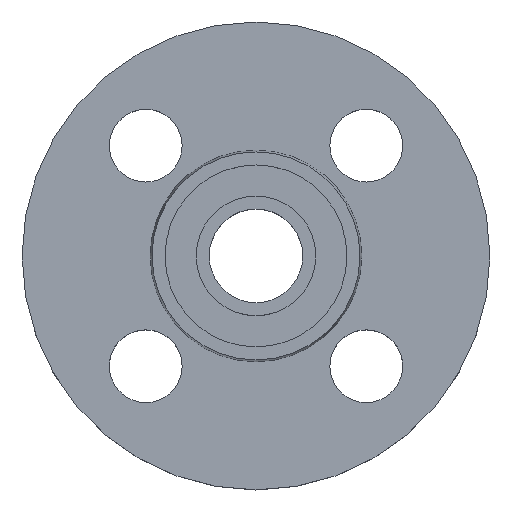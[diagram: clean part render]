
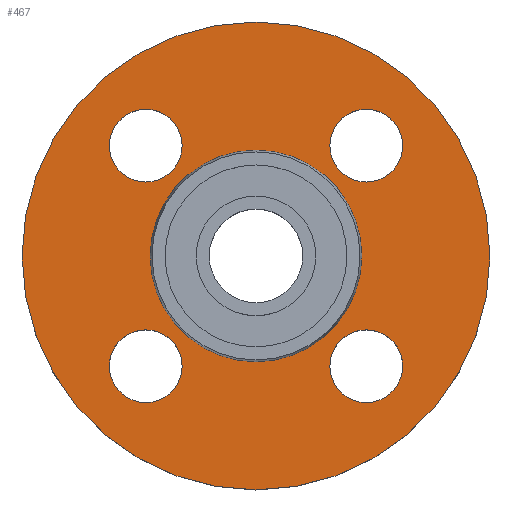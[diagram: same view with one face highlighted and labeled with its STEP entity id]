
A CAD part, top view. The second image highlights one B-rep face of the part: STEP entity #467.
In plain terms, the highlighted planar face has unit normal (0, 0, 1).
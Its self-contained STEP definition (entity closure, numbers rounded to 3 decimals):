
#11 = CARTESIAN_POINT ( 'NONE',  ( 28.213, 21.213, -2. ) ) ;
#13 = CARTESIAN_POINT ( 'NONE',  ( -14.213, -21.213, -2. ) ) ;
#15 = AXIS2_PLACEMENT_3D ( 'NONE', #123, #120, #121 ) ;
#33 = CARTESIAN_POINT ( 'NONE',  ( 28.213, -21.213, -2. ) ) ;
#57 = CARTESIAN_POINT ( 'NONE',  ( 45., 0., -2. ) ) ;
#61 = CARTESIAN_POINT ( 'NONE',  ( -28.213, 21.213, -2. ) ) ;
#62 = CARTESIAN_POINT ( 'NONE',  ( -28.213, -21.213, -2. ) ) ;
#74 = CARTESIAN_POINT ( 'NONE',  ( 14.213, 21.213, -2. ) ) ;
#77 = CIRCLE ( 'NONE', #362, 20.353 ) ;
#79 = VERTEX_POINT ( 'NONE', #865 ) ;
#84 = CARTESIAN_POINT ( 'NONE',  ( -14.213, 21.213, -2. ) ) ;
#88 = AXIS2_PLACEMENT_3D ( 'NONE', #344, #343, #342 ) ;
#99 = CARTESIAN_POINT ( 'NONE',  ( -20.353, 0., -2. ) ) ;
#100 = DIRECTION ( 'NONE',  ( -1., 0., 0. ) ) ;
#101 = DIRECTION ( 'NONE',  ( 0., 0., -1. ) ) ;
#103 = CARTESIAN_POINT ( 'NONE',  ( 21.213, 21.213, -2. ) ) ;
#109 = CARTESIAN_POINT ( 'NONE',  ( 0., 0., -2. ) ) ;
#112 = AXIS2_PLACEMENT_3D ( 'NONE', #211, #203, #232 ) ;
#113 = CARTESIAN_POINT ( 'NONE',  ( 14.213, -21.213, -2. ) ) ;
#120 = DIRECTION ( 'NONE',  ( 0., 0., -1. ) ) ;
#121 = DIRECTION ( 'NONE',  ( -1., 0., 0. ) ) ;
#123 = CARTESIAN_POINT ( 'NONE',  ( 0., 0., -2. ) ) ;
#131 = CARTESIAN_POINT ( 'NONE',  ( 20.353, 0., -2. ) ) ;
#194 = AXIS2_PLACEMENT_3D ( 'NONE', #109, #101, #100 ) ;
#200 = AXIS2_PLACEMENT_3D ( 'NONE', #432, #433, #437 ) ;
#203 = DIRECTION ( 'NONE',  ( 0., 0., -1. ) ) ;
#211 = CARTESIAN_POINT ( 'NONE',  ( 21.213, -21.213, -2. ) ) ;
#218 = EDGE_CURVE ( 'NONE', #631, #676, #296, .T. ) ;
#224 = EDGE_CURVE ( 'NONE', #795, #79, #496, .T. ) ;
#229 = CARTESIAN_POINT ( 'NONE',  ( -21.213, -21.213, -2. ) ) ;
#232 = DIRECTION ( 'NONE',  ( 1., 0., 0. ) ) ;
#236 = EDGE_CURVE ( 'NONE', #749, #659, #237, .T. ) ;
#237 = CIRCLE ( 'NONE', #268, 7. ) ;
#241 = CIRCLE ( 'NONE', #321, 7. ) ;
#256 = DIRECTION ( 'NONE',  ( 0., 0., -1. ) ) ;
#258 = AXIS2_PLACEMENT_3D ( 'NONE', #526, #527, #529 ) ;
#261 = DIRECTION ( 'NONE',  ( 1., 0., 0. ) ) ;
#268 = AXIS2_PLACEMENT_3D ( 'NONE', #460, #461, #465 ) ;
#273 = EDGE_CURVE ( 'NONE', #811, #580, #723, .T. ) ;
#296 = CIRCLE ( 'NONE', #200, 7. ) ;
#299 = DIRECTION ( 'NONE',  ( 0., 0., -1. ) ) ;
#309 = EDGE_CURVE ( 'NONE', #676, #631, #681, .T. ) ;
#321 = AXIS2_PLACEMENT_3D ( 'NONE', #229, #256, #261 ) ;
#322 = AXIS2_PLACEMENT_3D ( 'NONE', #405, #403, #401 ) ;
#329 = AXIS2_PLACEMENT_3D ( 'NONE', #103, #299, #680 ) ;
#342 = DIRECTION ( 'NONE',  ( 1., 0., 0. ) ) ;
#343 = DIRECTION ( 'NONE',  ( 0., 0., -1. ) ) ;
#344 = CARTESIAN_POINT ( 'NONE',  ( -21.213, 21.213, -2. ) ) ;
#362 = AXIS2_PLACEMENT_3D ( 'NONE', #471, #427, #468 ) ;
#372 = EDGE_CURVE ( 'NONE', #580, #811, #418, .T. ) ;
#378 = CIRCLE ( 'NONE', #15, 45. ) ;
#384 = DIRECTION ( 'NONE',  ( 1., 0., 0. ) ) ;
#385 = DIRECTION ( 'NONE',  ( 0., 0., -1. ) ) ;
#387 = CARTESIAN_POINT ( 'NONE',  ( -21.213, 21.213, -2. ) ) ;
#394 = EDGE_CURVE ( 'NONE', #659, #749, #241, .T. ) ;
#401 = DIRECTION ( 'NONE',  ( 1., 0., 0. ) ) ;
#403 = DIRECTION ( 'NONE',  ( 0., 0., 1. ) ) ;
#405 = CARTESIAN_POINT ( 'NONE',  ( 20.353, 0., -2. ) ) ;
#406 = CIRCLE ( 'NONE', #770, 7. ) ;
#408 = PLANE ( 'NONE',  #322 ) ;
#409 = FACE_OUTER_BOUND ( 'NONE', #717, .T. ) ;
#410 = FACE_BOUND ( 'NONE', #682, .T. ) ;
#411 = FACE_BOUND ( 'NONE', #585, .T. ) ;
#417 = FACE_BOUND ( 'NONE', #586, .T. ) ;
#418 = CIRCLE ( 'NONE', #112, 7. ) ;
#420 = FACE_BOUND ( 'NONE', #629, .T. ) ;
#427 = DIRECTION ( 'NONE',  ( 0., 0., -1. ) ) ;
#432 = CARTESIAN_POINT ( 'NONE',  ( 21.213, 21.213, -2. ) ) ;
#433 = DIRECTION ( 'NONE',  ( 0., 0., -1. ) ) ;
#437 = DIRECTION ( 'NONE',  ( 1., 0., 0. ) ) ;
#441 = CARTESIAN_POINT ( 'NONE',  ( 0., 0., -2. ) ) ;
#442 = DIRECTION ( 'NONE',  ( 0., 0., -1. ) ) ;
#443 = DIRECTION ( 'NONE',  ( -1., 0., 0. ) ) ;
#456 = EDGE_CURVE ( 'NONE', #601, #558, #77, .T. ) ;
#460 = CARTESIAN_POINT ( 'NONE',  ( -21.213, -21.213, -2. ) ) ;
#461 = DIRECTION ( 'NONE',  ( 0., 0., -1. ) ) ;
#465 = DIRECTION ( 'NONE',  ( 1., 0., 0. ) ) ;
#467 = ADVANCED_FACE ( 'NONE', ( #524, #411, #410, #417, #420, #409 ), #408, .T. ) ;
#468 = DIRECTION ( 'NONE',  ( -1., 0., 0. ) ) ;
#471 = CARTESIAN_POINT ( 'NONE',  ( 0., 0., -2. ) ) ;
#493 = EDGE_CURVE ( 'NONE', #623, #761, #406, .T. ) ;
#496 = CIRCLE ( 'NONE', #610, 45. ) ;
#516 = EDGE_CURVE ( 'NONE', #761, #623, #555, .T. ) ;
#524 = FACE_BOUND ( 'NONE', #815, .T. ) ;
#526 = CARTESIAN_POINT ( 'NONE',  ( 21.213, -21.213, -2. ) ) ;
#527 = DIRECTION ( 'NONE',  ( 0., 0., -1. ) ) ;
#529 = DIRECTION ( 'NONE',  ( 1., 0., 0. ) ) ;
#555 = CIRCLE ( 'NONE', #88, 7. ) ;
#558 = VERTEX_POINT ( 'NONE', #131 ) ;
#570 = EDGE_CURVE ( 'NONE', #79, #795, #378, .T. ) ;
#580 = VERTEX_POINT ( 'NONE', #113 ) ;
#585 = EDGE_LOOP ( 'NONE', ( #686, #688 ) ) ;
#586 = EDGE_LOOP ( 'NONE', ( #697, #698 ) ) ;
#597 = EDGE_CURVE ( 'NONE', #558, #601, #857, .T. ) ;
#601 = VERTEX_POINT ( 'NONE', #99 ) ;
#610 = AXIS2_PLACEMENT_3D ( 'NONE', #441, #442, #443 ) ;
#623 = VERTEX_POINT ( 'NONE', #84 ) ;
#629 = EDGE_LOOP ( 'NONE', ( #699, #700 ) ) ;
#631 = VERTEX_POINT ( 'NONE', #74 ) ;
#659 = VERTEX_POINT ( 'NONE', #13 ) ;
#676 = VERTEX_POINT ( 'NONE', #11 ) ;
#680 = DIRECTION ( 'NONE',  ( 1., 0., 0. ) ) ;
#681 = CIRCLE ( 'NONE', #329, 7. ) ;
#682 = EDGE_LOOP ( 'NONE', ( #695, #696 ) ) ;
#684 = ORIENTED_EDGE ( 'NONE', *, *, #273, .T. ) ;
#685 = ORIENTED_EDGE ( 'NONE', *, *, #372, .T. ) ;
#686 = ORIENTED_EDGE ( 'NONE', *, *, #394, .T. ) ;
#688 = ORIENTED_EDGE ( 'NONE', *, *, #236, .T. ) ;
#695 = ORIENTED_EDGE ( 'NONE', *, *, #493, .T. ) ;
#696 = ORIENTED_EDGE ( 'NONE', *, *, #516, .T. ) ;
#697 = ORIENTED_EDGE ( 'NONE', *, *, #309, .T. ) ;
#698 = ORIENTED_EDGE ( 'NONE', *, *, #218, .T. ) ;
#699 = ORIENTED_EDGE ( 'NONE', *, *, #456, .T. ) ;
#700 = ORIENTED_EDGE ( 'NONE', *, *, #597, .T. ) ;
#702 = ORIENTED_EDGE ( 'NONE', *, *, #224, .F. ) ;
#703 = ORIENTED_EDGE ( 'NONE', *, *, #570, .F. ) ;
#717 = EDGE_LOOP ( 'NONE', ( #702, #703 ) ) ;
#723 = CIRCLE ( 'NONE', #258, 7. ) ;
#749 = VERTEX_POINT ( 'NONE', #62 ) ;
#761 = VERTEX_POINT ( 'NONE', #61 ) ;
#770 = AXIS2_PLACEMENT_3D ( 'NONE', #387, #385, #384 ) ;
#795 = VERTEX_POINT ( 'NONE', #57 ) ;
#811 = VERTEX_POINT ( 'NONE', #33 ) ;
#815 = EDGE_LOOP ( 'NONE', ( #684, #685 ) ) ;
#857 = CIRCLE ( 'NONE', #194, 20.353 ) ;
#865 = CARTESIAN_POINT ( 'NONE',  ( -45., 0., -2. ) ) ;
